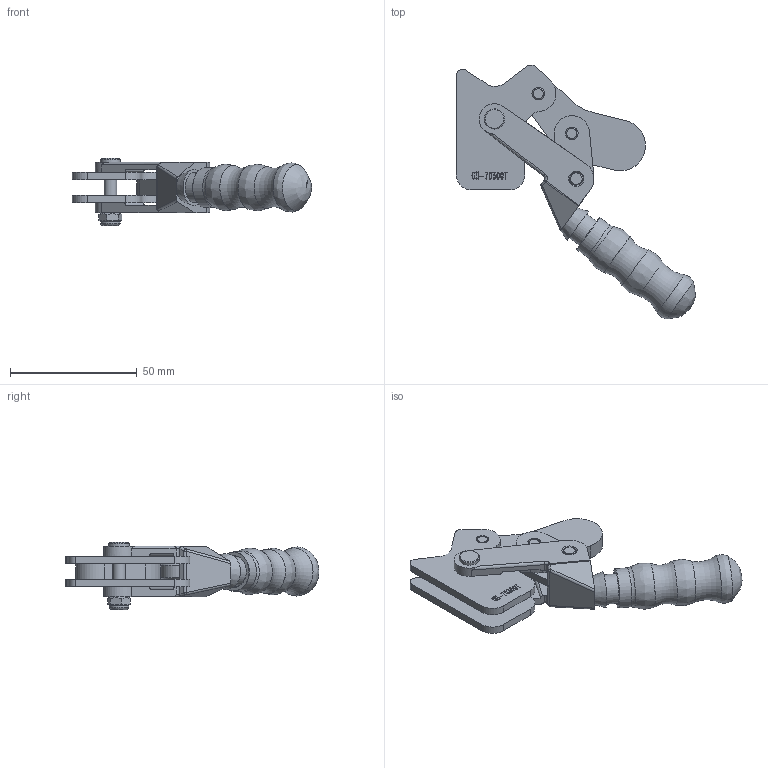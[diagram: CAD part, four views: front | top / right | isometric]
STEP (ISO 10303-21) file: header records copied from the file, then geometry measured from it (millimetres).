
FILE_DESCRIPTION(/* description */ ('STEP AP203'),/* implementation_level */ '2;1');
FILE_NAME(/* name */ 'D:\Vault_2016\Projekty\NASZ KATALOG\CLAMPTEK\STRONA\Heavy duty weldables\CH-70300T\CH-70300T_OTWARTY.stp',/* time_stamp */ '2019-01-21T15:52:10+01:00',/* author */ ('CADENGINEERING4'),/* organization */ ('Microsoft'),/* preprocessor_version */ 'ST-DEVELOPER v17.2',/* originating_system */ 'Autodesk Inventor 2019',/* authorisation */ '');
FILE_SCHEMA (('AUTOMOTIVE_DESIGN { 1 0 10303 214 3 1 1 }'));
Length unit declared in the file: millimetre
Products named in the file (12): CH-70300T_OTWARTY; Ö§¼Ü1; Ö§¼Ü2; ¼Ð¾ßÌå; ºùÂ«Ì×; Ñ¹°Ñ; Á¬¸Ë; ¸ôÌ×; ¶ÌÐ¾Öá; ÂÝ¸Ë; ³¤Ð¾Öá; ·ÀÂÝ
Assembly tree (13 placements, depth 2):
  CH-70300T_OTWARTY
    Ö§¼Ü1
    Ö§¼Ü2
    ¼Ð¾ßÌå
    ºùÂ«Ì×
    Ñ¹°Ñ
    Á¬¸Ë  x2
    ¸ôÌ×
    ¶ÌÐ¾Öá  x2
    ÂÝ¸Ë
    ³¤Ð¾Öá
    ·ÀÂÝ
Bounding box: 94.4 x 100.22 x 26.5 mm (x, y, z)
Volume: 35378.9 mm3; surface area: 25315.7 mm2
Topology: 13 solids, 13 shells, 606 faces, 1688 edges, 1138 vertices
Faces by surface type: plane 293, bspline 175, cylinder 82, cone 38, torus 13, sphere 5
Full cylindrical faces by diameter (mm): 1.735 x1, 1.82 x1, 4.134 x7, 5 x20, 5.16 x4, 5.2 x1, 7.78 x1, 8 x1, 11.7 x1, 12.517 x1, 12.521 x1, 14 x1, 15.5 x1
Entity records: 27868 total; most frequent: CARTESIAN_POINT 13078, ORIENTED_EDGE 3276, DIRECTION 2505, EDGE_CURVE 1638, VERTEX_POINT 1106, LINE 955, VECTOR 955, AXIS2_PLACEMENT_3D 775
